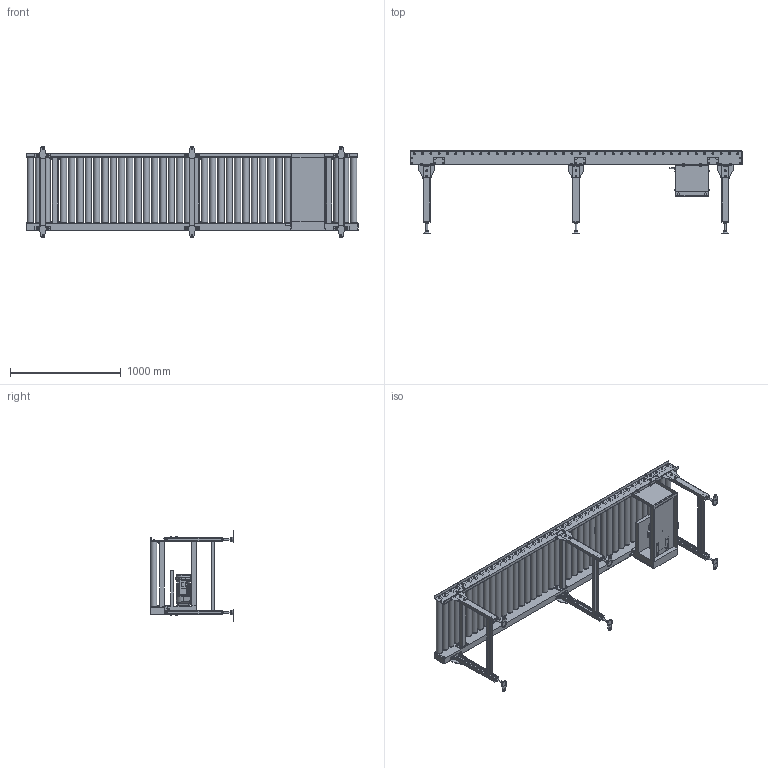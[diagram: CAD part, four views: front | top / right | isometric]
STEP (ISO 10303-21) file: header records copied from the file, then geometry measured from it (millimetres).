
FILE_DESCRIPTION( (''), '2;1');
FILE_NAME ('WEB-FCC2H-57-3-040-630-75-300-R-20S.stp','2026-03-19T10:11:32',(''),(''),'spGate 20.6.2 (****-****-****-****)','','');
FILE_SCHEMA (('AUTOMOTIVE_DESIGN'));
Length unit declared in the file: millimetre
Products named in the file (123): WEB-FCC2H-57-3-040-630-75-300-R-20S; TEMP_X_T-prt0; TEMP_X_T-prt1; TEMP_X_T-prt2; TEMP_X_T-prt3; TEMP_X_T-prt4; TEMP_X_T-prt5; TEMP_X_T-prt6; TEMP_X_T-prt7; TEMP_X_T-prt8; TEMP_X_T-prt9; TEMP_X_T-prt10; TEMP_X_T-prt11; TEMP_X_T-prt12; TEMP_X_T-prt13; TEMP_X_T-prt14; TEMP_X_T-prt15; TEMP_X_T-prt16; TEMP_X_T-prt17; TEMP_X_T-prt18; TEMP_X_T-prt19; TEMP_X_T-prt20; TEMP_X_T-prt21; TEMP_X_T-prt22; TEMP_X_T-prt23; TEMP_X_T-prt24; TEMP_X_T-prt25; TEMP_X_T-prt26; TEMP_X_T-prt27; TEMP_X_T-prt28; TEMP_X_T-prt29; TEMP_X_T-prt30; TEMP_X_T-prt31; TEMP_X_T-prt32; TEMP_X_T-prt33; TEMP_X_T-prt34; TEMP_X_T-prt35; TEMP_X_T-prt36; TEMP_X_T-prt37; TEMP_X_T-prt38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
Assembly tree (122 placements, depth 2):
  WEB-FCC2H-57-3-040-630-75-300-R-20S
    TEMP_X_T-prt0
    TEMP_X_T-prt1
    TEMP_X_T-prt2
    TEMP_X_T-prt3
    TEMP_X_T-prt4
    TEMP_X_T-prt5
    TEMP_X_T-prt6
    TEMP_X_T-prt7
    TEMP_X_T-prt8
    TEMP_X_T-prt9
    TEMP_X_T-prt10
    TEMP_X_T-prt11
    TEMP_X_T-prt12
    TEMP_X_T-prt13
    TEMP_X_T-prt14
    TEMP_X_T-prt15
    TEMP_X_T-prt16
    TEMP_X_T-prt17
    TEMP_X_T-prt18
    TEMP_X_T-prt19
    TEMP_X_T-prt20
    TEMP_X_T-prt21
    TEMP_X_T-prt22
    TEMP_X_T-prt23
    TEMP_X_T-prt24
    TEMP_X_T-prt25
    TEMP_X_T-prt26
    TEMP_X_T-prt27
    TEMP_X_T-prt28
    TEMP_X_T-prt29
    TEMP_X_T-prt30
    TEMP_X_T-prt31
    TEMP_X_T-prt32
    TEMP_X_T-prt33
    TEMP_X_T-prt34
    TEMP_X_T-prt35
    TEMP_X_T-prt36
    TEMP_X_T-prt37
    TEMP_X_T-prt38
    TEMP_X_T-prt39
    TEMP_X_T-prt40
    TEMP_X_T-prt41
    TEMP_X_T-prt42
    TEMP_X_T-prt43
    TEMP_X_T-prt44
    TEMP_X_T-prt45
    TEMP_X_T-prt46
    TEMP_X_T-prt47
    TEMP_X_T-prt48
    TEMP_X_T-prt49
    TEMP_X_T-prt50
    TEMP_X_T-prt51
    TEMP_X_T-prt52
    TEMP_X_T-prt53
    TEMP_X_T-prt54
    TEMP_X_T-prt55
    TEMP_X_T-prt56
    TEMP_X_T-prt57
    TEMP_X_T-prt58
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Bounding box: 3002.4 x 750 x 824 mm (x, y, z)
Volume: 103314936.2 mm3; surface area: 11305898.4 mm2
Topology: 122 solids, 122 shells, 3663 faces, 9250 edges, 6138 vertices
Faces by surface type: plane 2670, cylinder 886, bspline 83, sphere 24
Full cylindrical faces by diameter (mm): 4 x8, 5 x24, 6 x1, 8 x12, 8.5 x16, 9 x12, 9.2 x4, 9.4 x24, 10 x58, 10.5 x14, 11 x28, 12 x48, 13 x14, 15 x1, 15.4 x6, 16 x12, 17 x52, 18 x6, 21 x14, 24 x1, 25 x4, 28 x1, 30 x2, 47 x40, 56 x1, 57 x40, 113.2 x1, 125 x1
Entity records: 191398 total; most frequent: CARTESIAN_POINT 23840, DIRECTION 18947, ORIENTED_EDGE 18498, COLOUR_RGB 13034, PRESENTATION_STYLE_ASSIGNMENT 13034, STYLED_ITEM 13034, EDGE_CURVE 9249, DRAUGHTING_PRE_DEFINED_CURVE_FONT 9249
